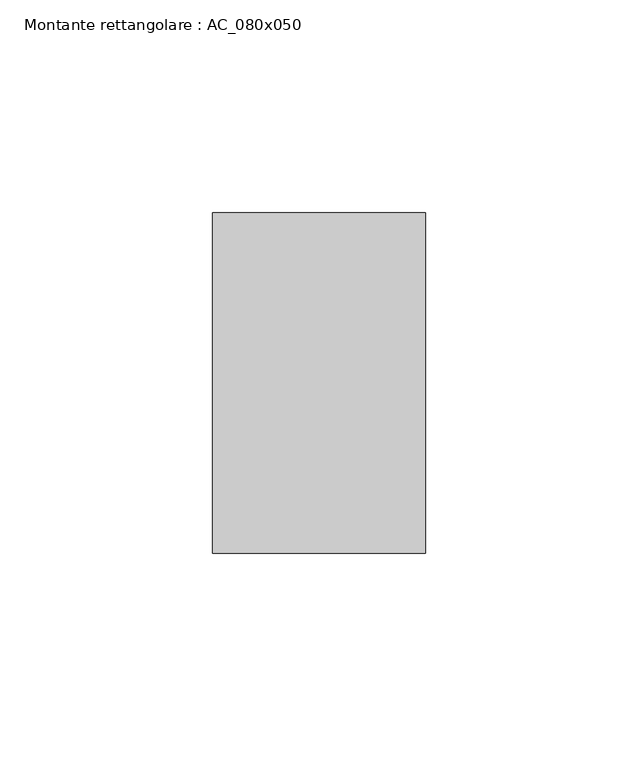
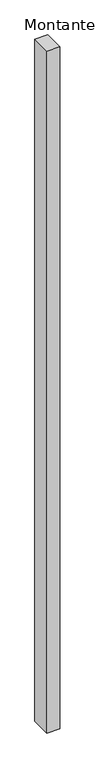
"""IFC4 building model written with IfcOpenShell, lengths in millimetres: member geometry, Montante rettangolare : AC_080x050."""

from ifc_helpers import new_model, si_unit, frame, origin, place, context, project, spatial, polyline, outline, extrude, source, transform, mapped, element, save


def montante_rettangolare_ac_080x050_9ed485d2(model_context):
    return source(origin(), model_context, "Body", "SweptSolid", [
        extrude(outline(polyline([(0.0, 40.0), (0.0, -40.0), (-50.0, -40.0), (-50.0, 40.0), (0.0, 40.0)])), frame((0.0, 0.0, -2770.0), z_axis=(0.0, 0.0, 1.0), x_axis=(1.0, 0.0, 0.0)), (0.0, 0.0, 1.0), 2770.0),
    ])


if __name__ == "__main__":
    model = new_model("IFC4")
    model_context = context("Model", 3, world=origin())
    ifc_project = project(units=[si_unit("LENGTHUNIT", "METRE", prefix="MILLI")], contexts=[model_context])
    site = spatial("IfcSite", under=ifc_project)
    building = spatial("IfcBuilding", under=site)
    placement = place(None, origin())
    montante_rettangolare_ac_080x050_shape = montante_rettangolare_ac_080x050_9ed485d2(model_context)
    element("IfcMember", 1, ObjectType="Montante rettangolare : AC_080x050", at=placement, inside=building, context=model_context, shape_type="MappedRepresentation", body=[
        mapped(montante_rettangolare_ac_080x050_shape, transform((0.0, 0.0, 0.0), x_axis=(1.0, 0.0, 0.0), y_axis=(0.0, 1.0, 0.0), z_axis=(0.0, 0.0, 1.0))),
    ])
    save(model, "model.ifc")
